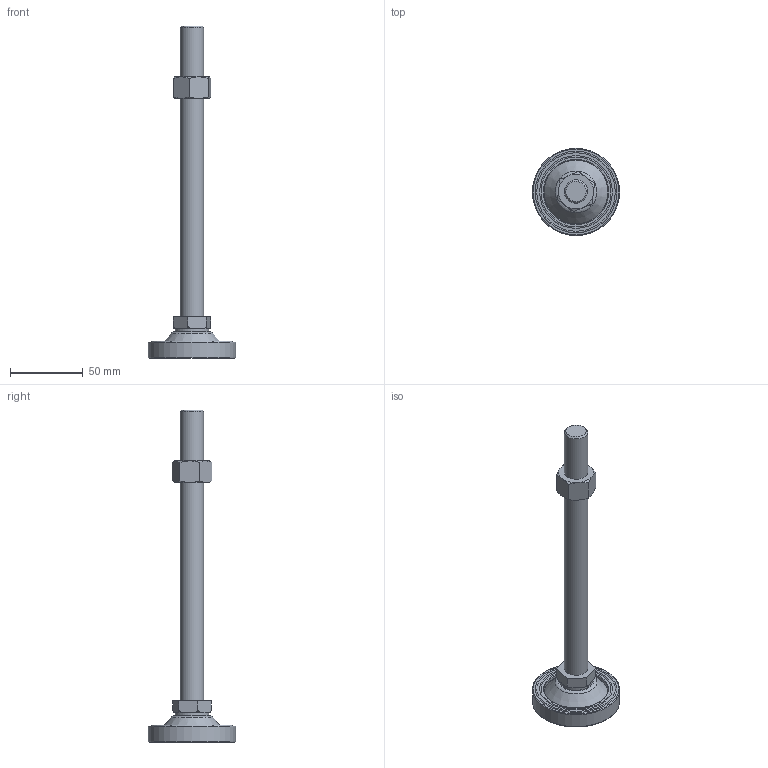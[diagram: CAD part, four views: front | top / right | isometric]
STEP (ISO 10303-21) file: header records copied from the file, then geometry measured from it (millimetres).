
FILE_DESCRIPTION((' '),'2;1');
FILE_NAME('Y:\00. A standard brand\06. 3D Modeling\외부전송용_STEP\LEVELLING FOOT(STEP)\A-PLR SERIES STEP\A-PLR-16-200.stp.stp','2011-11-22T18:41:56',(' '),(' '),' ','ACIS',' ');
FILE_SCHEMA(('CONFIG_CONTROL_DESIGN'));
Length unit declared in the file: millimetre
Products named in the file (1): Y:\00. A standard brand\06. 3D Modeling\외부전송용_STEP\LEVELLING FOOT(STEP)\A-PLR SERIES STEP\A-PLR-16-200.stp.stp
Bounding box: 60 x 60 x 228.31 mm (x, y, z)
Volume: 76933 mm3; surface area: 26712 mm2
Topology: 3 solids, 4 shells, 114 faces, 253 edges, 157 vertices
Faces by surface type: plane 55, cylinder 20, cone 17, torus 15, bspline 7
Full cylindrical faces by diameter (mm): 8 x1, 12 x2, 16 x3, 19.27 x1, 23 x1, 31 x1, 44 x2, 60 x1
Entity records: 3378 total; most frequent: CARTESIAN_POINT 976, DIRECTION 476, ORIENTED_EDGE 424, EDGE_CURVE 212, AXIS2_PLACEMENT_3D 192, EDGE_LOOP 160, VERTEX_POINT 149, FACE_OUTER_BOUND 114
